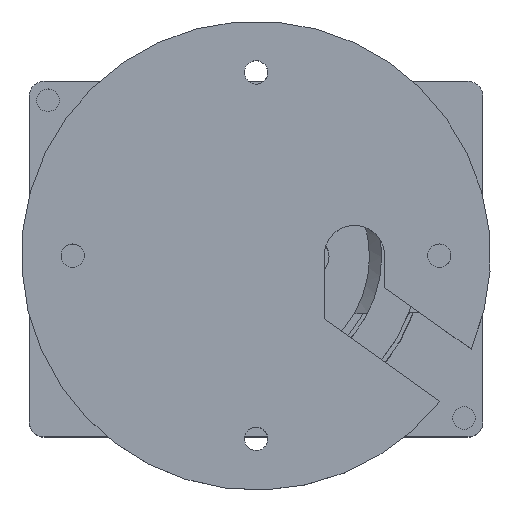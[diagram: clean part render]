
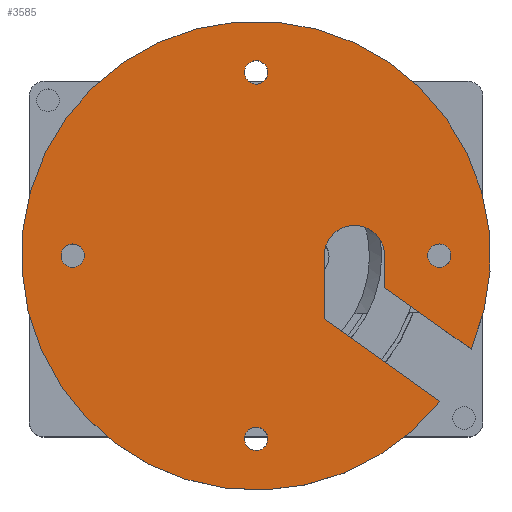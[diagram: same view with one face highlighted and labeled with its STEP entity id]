
A CAD part, top view. The second image highlights one B-rep face of the part: STEP entity #3585.
In plain terms, the highlighted planar face has unit normal (0, 0, 1).
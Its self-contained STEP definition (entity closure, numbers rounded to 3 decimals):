
#171=FACE_BOUND('',#1170,.T.);
#172=FACE_BOUND('',#1171,.T.);
#173=FACE_BOUND('',#1172,.T.);
#174=FACE_BOUND('',#1173,.T.);
#251=PLANE('',#4002);
#404=LINE('',#6120,#636);
#406=LINE('',#6124,#638);
#408=LINE('',#6129,#640);
#411=LINE('',#6133,#643);
#636=VECTOR('',#4675,10.);
#638=VECTOR('',#4679,10.);
#640=VECTOR('',#4683,10.);
#643=VECTOR('',#4688,10.);
#937=FACE_OUTER_BOUND('',#1169,.T.);
#1169=EDGE_LOOP('',(#2849,#2850,#2851,#2852,#2853,#2854));
#1170=EDGE_LOOP('',(#2855));
#1171=EDGE_LOOP('',(#2856));
#1172=EDGE_LOOP('',(#2857));
#1173=EDGE_LOOP('',(#2858));
#1420=CIRCLE('',#3997,4.);
#1421=CIRCLE('',#4003,31.);
#1422=CIRCLE('',#4004,1.55);
#1423=CIRCLE('',#4005,1.55);
#1424=CIRCLE('',#4006,1.55);
#1425=CIRCLE('',#4007,1.55);
#1739=VERTEX_POINT('',#6113);
#1740=VERTEX_POINT('',#6114);
#1741=VERTEX_POINT('',#6119);
#1742=VERTEX_POINT('',#6123);
#1743=VERTEX_POINT('',#6127);
#1744=VERTEX_POINT('',#6128);
#1745=VERTEX_POINT('',#6136);
#1746=VERTEX_POINT('',#6138);
#1747=VERTEX_POINT('',#6140);
#1748=VERTEX_POINT('',#6142);
#2139=EDGE_CURVE('',#1739,#1740,#1420,.T.);
#2142=EDGE_CURVE('',#1740,#1741,#404,.T.);
#2144=EDGE_CURVE('',#1741,#1742,#406,.T.);
#2146=EDGE_CURVE('',#1743,#1744,#408,.T.);
#2149=EDGE_CURVE('',#1744,#1739,#411,.T.);
#2150=EDGE_CURVE('',#1742,#1743,#1421,.T.);
#2151=EDGE_CURVE('',#1745,#1745,#1422,.T.);
#2152=EDGE_CURVE('',#1746,#1746,#1423,.T.);
#2153=EDGE_CURVE('',#1747,#1747,#1424,.T.);
#2154=EDGE_CURVE('',#1748,#1748,#1425,.T.);
#2849=ORIENTED_EDGE('',*,*,#2146,.T.);
#2850=ORIENTED_EDGE('',*,*,#2149,.T.);
#2851=ORIENTED_EDGE('',*,*,#2139,.T.);
#2852=ORIENTED_EDGE('',*,*,#2142,.T.);
#2853=ORIENTED_EDGE('',*,*,#2144,.T.);
#2854=ORIENTED_EDGE('',*,*,#2150,.T.);
#2855=ORIENTED_EDGE('',*,*,#2151,.T.);
#2856=ORIENTED_EDGE('',*,*,#2152,.T.);
#2857=ORIENTED_EDGE('',*,*,#2153,.T.);
#2858=ORIENTED_EDGE('',*,*,#2154,.T.);
#3585=ADVANCED_FACE('',(#937,#171,#172,#173,#174),#251,.T.);
#3997=AXIS2_PLACEMENT_3D('',#6115,#4669,#4670);
#4002=AXIS2_PLACEMENT_3D('',#6134,#4689,#4690);
#4003=AXIS2_PLACEMENT_3D('',#6135,#4691,#4692);
#4004=AXIS2_PLACEMENT_3D('',#6137,#4693,#4694);
#4005=AXIS2_PLACEMENT_3D('',#6139,#4695,#4696);
#4006=AXIS2_PLACEMENT_3D('',#6141,#4697,#4698);
#4007=AXIS2_PLACEMENT_3D('',#6143,#4699,#4700);
#4669=DIRECTION('center_axis',(0.,0.,-1.));
#4670=DIRECTION('ref_axis',(1.,0.,0.));
#4675=DIRECTION('',(0.,-1.,0.));
#4679=DIRECTION('',(0.815,-0.579,0.));
#4683=DIRECTION('',(-0.815,0.579,0.));
#4688=DIRECTION('',(0.,1.,0.));
#4689=DIRECTION('center_axis',(0.,0.,1.));
#4690=DIRECTION('ref_axis',(1.,0.,0.));
#4691=DIRECTION('center_axis',(0.,0.,1.));
#4692=DIRECTION('ref_axis',(1.,0.,0.));
#4693=DIRECTION('center_axis',(0.,0.,-1.));
#4694=DIRECTION('ref_axis',(1.,0.,0.));
#4695=DIRECTION('center_axis',(0.,0.,-1.));
#4696=DIRECTION('ref_axis',(1.,0.,0.));
#4697=DIRECTION('center_axis',(0.,0.,-1.));
#4698=DIRECTION('ref_axis',(1.,0.,0.));
#4699=DIRECTION('center_axis',(0.,0.,-1.));
#4700=DIRECTION('ref_axis',(1.,0.,0.));
#6113=CARTESIAN_POINT('',(9.,0.,89.));
#6114=CARTESIAN_POINT('',(17.,0.,89.));
#6115=CARTESIAN_POINT('Origin',(13.,0.,89.));
#6119=CARTESIAN_POINT('',(17.,-4.231,89.));
#6120=CARTESIAN_POINT('',(17.,-2.115,89.));
#6123=CARTESIAN_POINT('',(28.432,-12.355,89.));
#6124=CARTESIAN_POINT('',(16.069,-3.569,89.));
#6127=CARTESIAN_POINT('',(24.308,-19.239,89.));
#6128=CARTESIAN_POINT('',(9.,-8.36,89.));
#6129=CARTESIAN_POINT('',(4.036,-4.832,89.));
#6133=CARTESIAN_POINT('',(9.,0.,89.));
#6134=CARTESIAN_POINT('Origin',(0.,0.,89.));
#6135=CARTESIAN_POINT('Origin',(0.,0.,89.));
#6136=CARTESIAN_POINT('',(-25.775,0.,89.));
#6137=CARTESIAN_POINT('Origin',(-24.225,0.,
89.));
#6138=CARTESIAN_POINT('',(-1.55,24.225,89.));
#6139=CARTESIAN_POINT('Origin',(0.,24.225,
89.));
#6140=CARTESIAN_POINT('',(-1.55,-24.225,89.));
#6141=CARTESIAN_POINT('Origin',(0.,-24.225,
89.));
#6142=CARTESIAN_POINT('',(22.675,0.,89.));
#6143=CARTESIAN_POINT('Origin',(24.225,0.,
89.));
